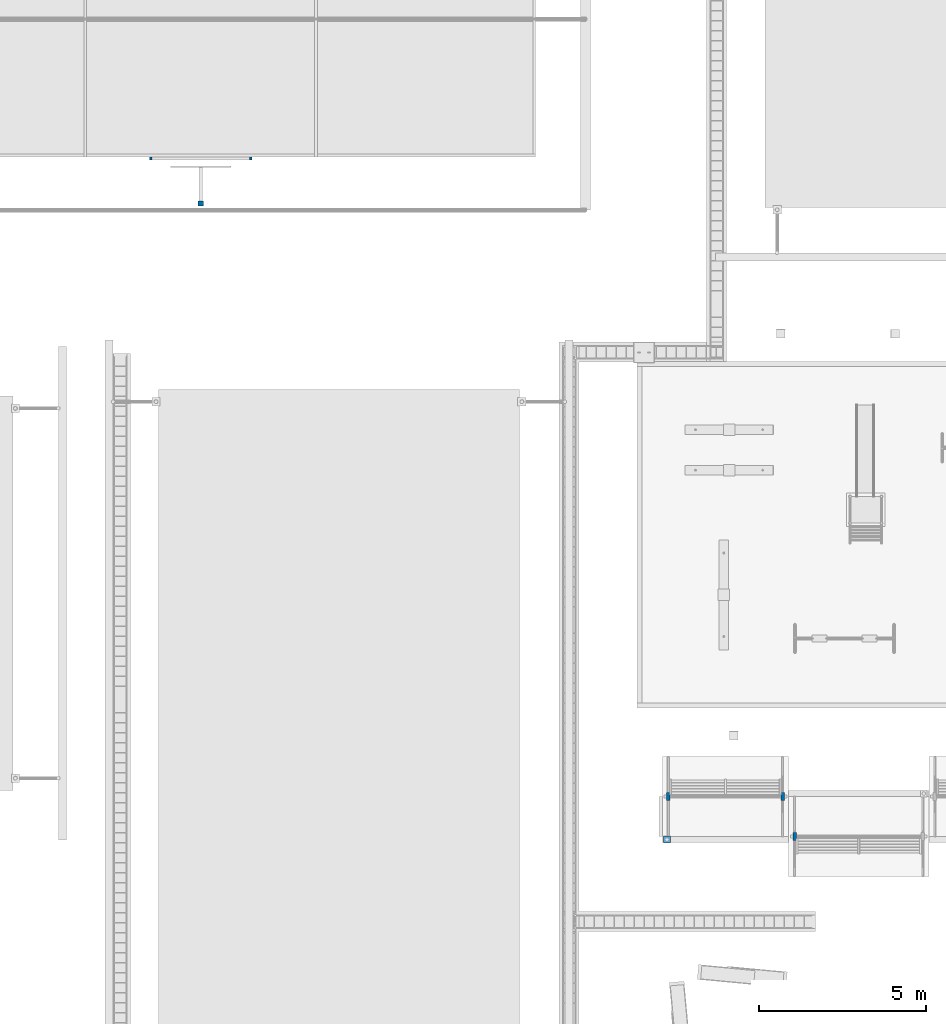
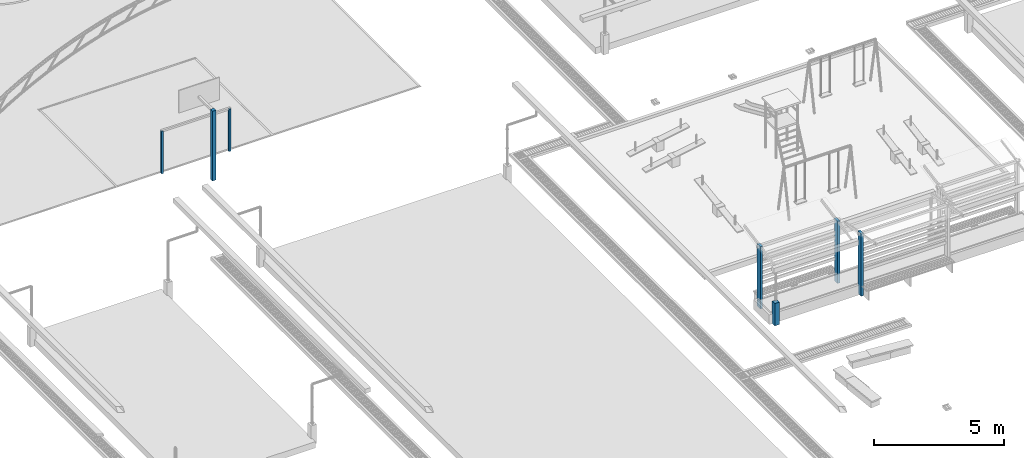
# One storey, part 3 of 90: 7 columns.
"""IFC2X3 building model written with IfcOpenShell, lengths in metres."""

from ifc_helpers import new_model, si_unit, origin, origin_with_axes, place, context, subcontext, project, spatial, faceted_brep, element, save


model = new_model("IFC2X3")

# Units and contexts
model_context = context("Model", 3, precision=1e-05, world=origin_with_axes())
body_context = subcontext(model_context, "Body", "Model", "MODEL_VIEW")
ifc_project = project(units=[si_unit("LENGTHUNIT", "METRE"), si_unit("AREAUNIT", "SQUARE_METRE"), si_unit("VOLUMEUNIT", "CUBIC_METRE"), si_unit("PLANEANGLEUNIT", "RADIAN")], contexts=[model_context])

# Site, building, storey
site_placement = place(None, origin_with_axes())
site = spatial("IfcSite", under=ifc_project, at=site_placement, Name="Predio Los Mangos - Morales, San Martín", CompositionType="ELEMENT")
building_placement = place(site_placement, origin())
building = spatial("IfcBuilding", under=site, at=building_placement, Name="Hogar de Refugio Temporal", CompositionType="ELEMENT")
storey_placement = place(building_placement, origin())
storey = spatial("IfcBuildingStorey", under=building, at=storey_placement, Name="NIVEL 1 (NPT +0.00)", CompositionType="ELEMENT", Elevation=0.0)

# Columns
column_1_placement = place(storey_placement, origin())
element("IfcColumn", 1, at=column_1_placement, inside=storey, Name="poste_arco", ObjectType="Columna", context=body_context, shape_type="Brep", body=[
    faceted_brep([(13.51, 94.11, 0.12), (13.51, 94.19, 0.12), (13.59, 94.19, 0.12), (13.59, 94.11, 0.12), (13.51, 94.11, 2.12), (13.59, 94.11, 2.12), (13.59, 94.19, 2.12), (13.51, 94.19, 2.12)], [[[0, 1, 2, 3]], [[4, 5, 6, 7]], [[0, 3, 5, 4]], [[3, 2, 6, 5]], [[2, 1, 7, 6]], [[1, 0, 4, 7]]]),
])
column_2_placement = place(storey_placement, origin())
element("IfcColumn", 2, at=column_2_placement, inside=storey, Name="poste_arco", ObjectType="Columna", context=body_context, shape_type="Brep", body=[
    faceted_brep([(16.51, 94.11, 0.12), (16.51, 94.19, 0.12), (16.59, 94.19, 0.12), (16.59, 94.11, 0.12), (16.51, 94.11, 2.12), (16.59, 94.11, 2.12), (16.59, 94.19, 2.12), (16.51, 94.19, 2.12)], [[[0, 1, 2, 3]], [[4, 5, 6, 7]], [[0, 3, 5, 4]], [[3, 2, 6, 5]], [[2, 1, 7, 6]], [[1, 0, 4, 7]]]),
])
column_3_placement = place(storey_placement, origin())
element("IfcColumn", 3, at=column_3_placement, inside=storey, Name="poste_basquet", ObjectType="Columna", context=body_context, shape_type="Brep", body=[
    faceted_brep([(14.97, 92.72, 0.12), (14.97, 92.88, 0.12), (15.13, 92.88, 0.12), (15.13, 92.72, 0.12), (14.97, 92.72, 3.4), (15.13, 92.72, 3.4), (15.13, 92.88, 3.4), (14.97, 92.88, 3.4)], [[[0, 1, 2, 3]], [[4, 5, 6, 7]], [[0, 3, 5, 4]], [[3, 2, 6, 5]], [[2, 1, 7, 6]], [[1, 0, 4, 7]]]),
])
column_4_placement = place(storey_placement, origin())
element("IfcColumn", 4, at=column_4_placement, inside=storey, Name="oc01_columna", ObjectType="Columna", context=body_context, shape_type="Brep", body=[
    faceted_brep([(32.925, 73.925, 0.0), (32.925, 73.675, 0.0), (32.825, 73.675, 0.0), (32.825, 73.925, 0.0), (32.925, 73.925, 2.93), (32.825, 73.925, 2.93), (32.825, 73.675, 2.93), (32.925, 73.675, 2.93)], [[[0, 1, 2, 3]], [[4, 5, 6, 7]], [[0, 3, 5, 4]], [[3, 2, 6, 5]], [[2, 1, 7, 6]], [[1, 0, 4, 7]]]),
])
column_5_placement = place(storey_placement, origin())
element("IfcColumn", 5, at=column_5_placement, inside=storey, Name="oc01_columna", ObjectType="Columna", context=body_context, shape_type="Brep", body=[
    faceted_brep([(32.565, 75.125, 0.0), (32.565, 74.875, 0.0), (32.465, 74.875, 0.0), (32.465, 75.125, 0.0), (32.565, 75.125, 2.93), (32.465, 75.125, 2.93), (32.465, 74.875, 2.93), (32.565, 74.875, 2.93)], [[[0, 1, 2, 3]], [[4, 5, 6, 7]], [[0, 3, 5, 4]], [[3, 2, 6, 5]], [[2, 1, 7, 6]], [[1, 0, 4, 7]]]),
])
column_6_placement = place(storey_placement, origin())
element("IfcColumn", 6, at=column_6_placement, inside=storey, Name="oc01_columna", ObjectType="Columna", context=body_context, shape_type="Brep", body=[
    faceted_brep([(29.135, 75.125, 0.0), (29.135, 74.875, 0.0), (29.035, 74.875, 0.0), (29.035, 75.125, 0.0), (29.135, 75.125, 2.93), (29.035, 75.125, 2.93), (29.035, 74.875, 2.93), (29.135, 74.875, 2.93)], [[[0, 1, 2, 3]], [[4, 5, 6, 7]], [[0, 3, 5, 4]], [[3, 2, 6, 5]], [[2, 1, 7, 6]], [[1, 0, 4, 7]]]),
])
column_7_placement = place(storey_placement, origin())
element("IfcColumn", 7, at=column_7_placement, inside=storey, Name="oc01_falsa_columna", ObjectType="Falsa columna", context=body_context, shape_type="Brep", body=[
    faceted_brep([(29.145, 73.81, 0.0), (29.145, 73.61, 0.0), (28.945, 73.61, 0.0), (28.945, 73.81, 0.0), (29.145, 73.81, 1.05), (28.945, 73.81, 1.05), (28.945, 73.61, 1.05), (29.145, 73.61, 1.05)], [[[0, 1, 2, 3]], [[4, 5, 6, 7]], [[0, 3, 5, 4]], [[3, 2, 6, 5]], [[2, 1, 7, 6]], [[1, 0, 4, 7]]]),
])

save(model, "model.ifc")
